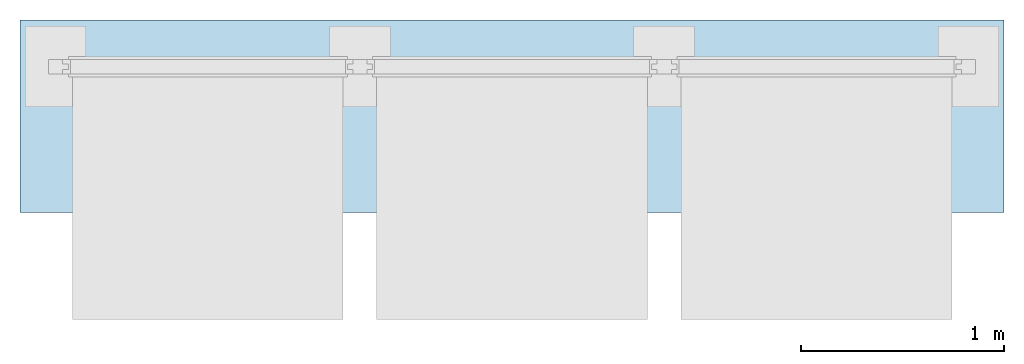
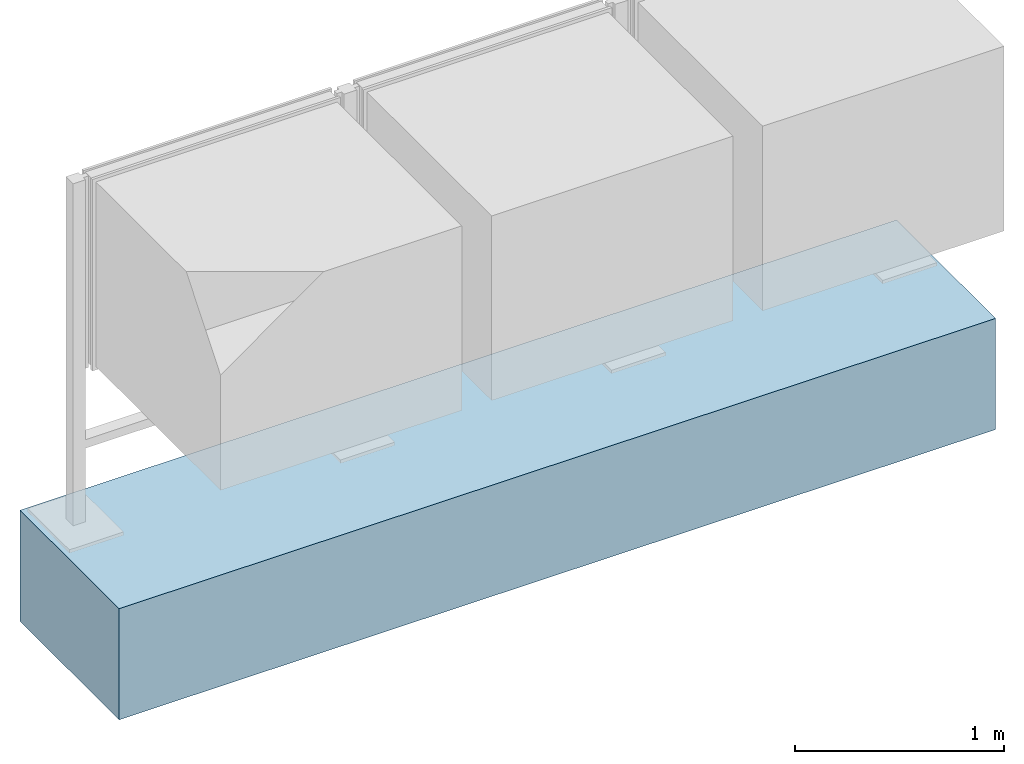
# One storey, incomplete: 1 slab.
"""IFC4 building model written with IfcOpenShell, lengths in metres."""

from ifc_helpers import new_model, entity, si_unit, converted_unit, direction, frame, frame_2d, origin, place, context, subcontext, project, spatial, rectangle, extrude, material, type_object, element, save


model = new_model("IFC4")

# Units and contexts
model_context = context("Model", 3, precision=1e-05, world=origin(), true_north=direction((6.123031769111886e-17, 1.0)))
body_context = subcontext(model_context, "Body", "Model", "MODEL_VIEW")
ifc_project = project(units=[si_unit("LENGTHUNIT", "METRE"), converted_unit("PLANEANGLEUNIT", "DEGREE", entity("IfcPlaneAngleMeasure", 0.017453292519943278), si_unit("PLANEANGLEUNIT", "RADIAN"), dimensions=[0, 0, 0, 0, 0, 0, 0]), si_unit("AREAUNIT", "SQUARE_METRE")], contexts=[model_context])

# Site, building, storey
site_placement = place(None, origin())
site = spatial("IfcSite", under=ifc_project, at=site_placement, Name="Default", CompositionType="ELEMENT")
building_placement = place(site_placement, origin())
building = spatial("IfcBuilding", under=site, at=building_placement, CompositionType="ELEMENT")
storey_placement = place(building_placement, origin())
storey = spatial("IfcBuildingStorey", under=building, at=storey_placement, Name="Ebene 0", CompositionType="ELEMENT", Elevation=0.0)

# Slab
ifc_material = material(Name="DB_Magerbeton", Category="DB_Beton")
slab_type = type_object("IfcSlabType", Name="DB_Vitrine_Fundament_dreifeldrig_Windlastzone_1_2:DB_Vitrine_Fundament_dreifeldrig_Windlastzone_1_2", PredefinedType="BASESLAB", material=ifc_material)
slab_placement = place(storey_placement, origin())
element("IfcSlab", 1, at=slab_placement, inside=storey, type_object=slab_type, Name="DB_Vitrine_Fundament_dreifeldrig_Windlastzone_1_2:DB_Vitrine_Fundament_dreifeldrig_Windlastzone_1_2", ObjectType="DB_Vitrine_Fundament_dreifeldrig_Windlastzone_1_2:DB_Vitrine_Fundament_dreifeldrig_Windlastzone_1_2", PredefinedType="BASESLAB", context=body_context, shape_type="SweptSolid", body=[
    extrude(rectangle(XDim=0.9500000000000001, YDim=4.85, at=frame_2d((0.0, -4.440892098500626e-16), x_axis=(1.0, 0.0))), frame((2.249374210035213, -0.24499999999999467, 0.0), z_axis=(0.0, 0.0, 1.0), x_axis=(0.0, -1.0, 0.0)), (0.0, 0.0, 1.0), 0.04999999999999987),
    extrude(rectangle(XDim=4.85, YDim=0.9500000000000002, at=frame_2d((0.0, -2.7755575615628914e-17), x_axis=(1.0, 0.0))), frame((2.2493742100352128, -0.24499999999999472, 0.04999999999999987), z_axis=(0.0, 0.0, 1.0), x_axis=(-1.0, 0.0, 0.0)), (0.0, 0.0, 1.0), 0.5999999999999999),
])

save(model, "model.ifc")
